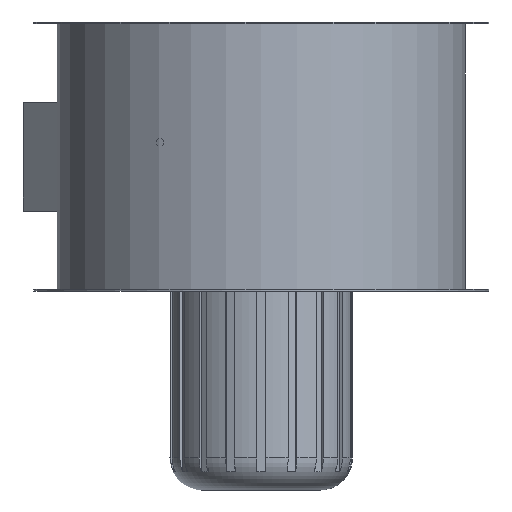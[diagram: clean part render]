
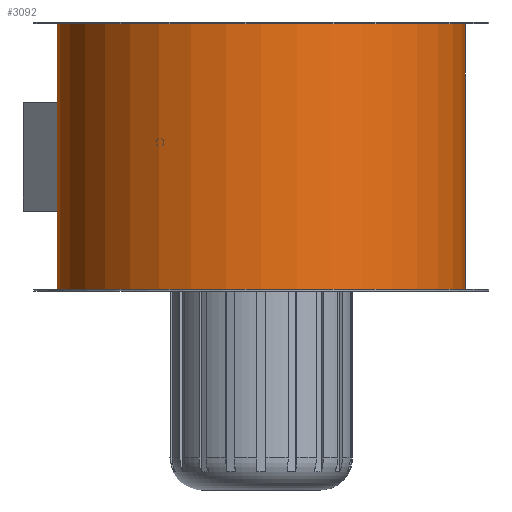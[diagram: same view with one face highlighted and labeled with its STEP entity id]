
A CAD part, front view. The second image highlights one B-rep face of the part: STEP entity #3092.
In plain terms, the highlighted cylindrical face has radius 318 mm (diameter 636 mm), a full revolution.
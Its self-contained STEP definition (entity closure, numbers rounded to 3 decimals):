
#242=FACE_BOUND('',#693,.T.);
#243=FACE_BOUND('',#694,.T.);
#418=CYLINDRICAL_SURFACE('',#3338,318.);
#483=FACE_OUTER_BOUND('',#692,.T.);
#692=EDGE_LOOP('',(#2183));
#693=EDGE_LOOP('',(#2184,#2185,#2186,#2187));
#694=EDGE_LOOP('',(#2188));
#904=CIRCLE('',#3230,318.);
#905=CIRCLE('',#3235,318.);
#972=CIRCLE('',#3339,318.);
#973=CIRCLE('',#3340,318.);
#1059=LINE('',#4424,#1189);
#1060=LINE('',#4427,#1190);
#1189=VECTOR('',#3594,10.);
#1190=VECTOR('',#3597,10.);
#1312=VERTEX_POINT('',#4407);
#1315=VERTEX_POINT('',#4412);
#1318=VERTEX_POINT('',#4422);
#1319=VERTEX_POINT('',#4426);
#1395=VERTEX_POINT('',#4822);
#1396=VERTEX_POINT('',#4824);
#1642=EDGE_CURVE('',#1312,#1315,#904,.T.);
#1647=EDGE_CURVE('',#1315,#1318,#1059,.T.);
#1648=EDGE_CURVE('',#1319,#1312,#1060,.T.);
#1650=EDGE_CURVE('',#1318,#1319,#905,.T.);
#1726=EDGE_CURVE('',#1395,#1395,#972,.F.);
#1727=EDGE_CURVE('',#1396,#1396,#973,.T.);
#2183=ORIENTED_EDGE('',*,*,#1726,.T.);
#2184=ORIENTED_EDGE('',*,*,#1642,.T.);
#2185=ORIENTED_EDGE('',*,*,#1647,.T.);
#2186=ORIENTED_EDGE('',*,*,#1650,.T.);
#2187=ORIENTED_EDGE('',*,*,#1648,.T.);
#2188=ORIENTED_EDGE('',*,*,#1727,.T.);
#3092=ADVANCED_FACE('',(#483,#242,#243),#418,.T.);
#3230=AXIS2_PLACEMENT_3D('',#4414,#3584,#3585);
#3235=AXIS2_PLACEMENT_3D('',#4430,#3601,#3602);
#3338=AXIS2_PLACEMENT_3D('',#4821,#3807,#3808);
#3339=AXIS2_PLACEMENT_3D('',#4823,#3809,#3810);
#3340=AXIS2_PLACEMENT_3D('',#4825,#3811,#3812);
#3584=DIRECTION('center_axis',(0.,0.,-1.));
#3585=DIRECTION('ref_axis',(-1.,0.,0.));
#3594=DIRECTION('',(0.,0.,1.));
#3597=DIRECTION('',(0.,0.,-1.));
#3601=DIRECTION('center_axis',(0.,0.,1.));
#3602=DIRECTION('ref_axis',(-1.,0.,0.));
#3807=DIRECTION('center_axis',(0.,0.,1.));
#3808=DIRECTION('ref_axis',(-1.,0.,0.));
#3809=DIRECTION('center_axis',(0.,0.,-1.));
#3810=DIRECTION('ref_axis',(-1.,0.,0.));
#3811=DIRECTION('center_axis',(0.,0.,-1.));
#3812=DIRECTION('ref_axis',(-1.,0.,0.));
#4407=CARTESIAN_POINT('',(-276.782,156.574,-85.));
#4412=CARTESIAN_POINT('',(-156.574,276.782,-85.));
#4414=CARTESIAN_POINT('Origin',(0.,0.,-85.));
#4422=CARTESIAN_POINT('',(-156.574,276.782,85.));
#4424=CARTESIAN_POINT('',(-156.574,276.782,0.));
#4426=CARTESIAN_POINT('',(-276.782,156.574,85.));
#4427=CARTESIAN_POINT('',(-276.782,156.574,0.));
#4430=CARTESIAN_POINT('Origin',(0.,0.,85.));
#4821=CARTESIAN_POINT('Origin',(0.,0.,0.));
#4822=CARTESIAN_POINT('',(318.,0.,-207.));
#4823=CARTESIAN_POINT('Origin',(0.,0.,-207.));
#4824=CARTESIAN_POINT('',(318.,0.,207.));
#4825=CARTESIAN_POINT('Origin',(0.,0.,207.));
